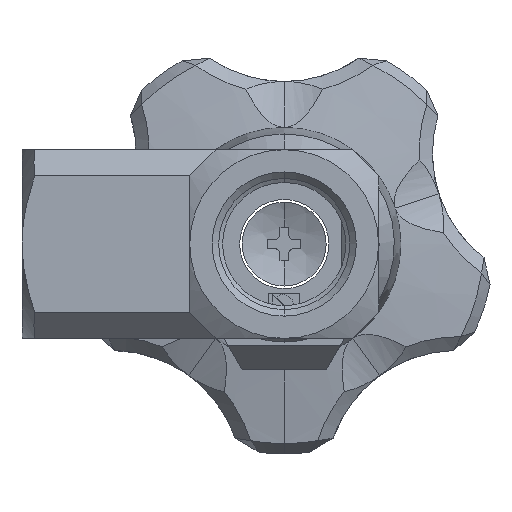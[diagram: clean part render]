
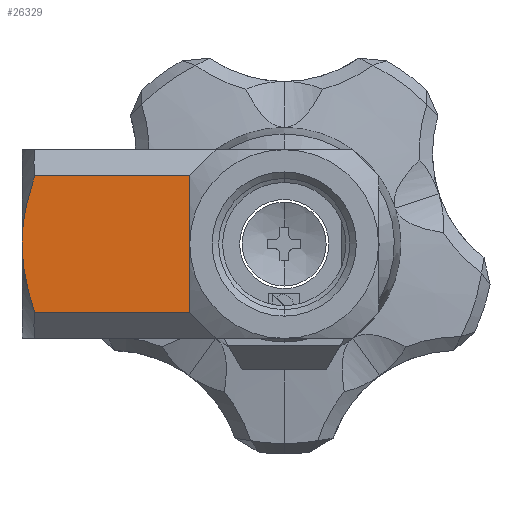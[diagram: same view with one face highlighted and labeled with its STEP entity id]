
A CAD part, front view. The second image highlights one B-rep face of the part: STEP entity #26329.
In plain terms, the highlighted planar face has unit normal (0, -1, 0).
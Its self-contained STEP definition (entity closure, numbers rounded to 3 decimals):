
#850 = CARTESIAN_POINT ( 'NONE',  ( -25., -9., 0. ) ) ;
#951 = CARTESIAN_POINT ( 'NONE',  ( -24.142, -9., 5.448 ) ) ;
#1094 = CARTESIAN_POINT ( 'NONE',  ( -23.787, -9., 6.5 ) ) ;
#2504 = CARTESIAN_POINT ( 'NONE',  ( -24.448, -9., -4.375 ) ) ;
#2564 = CARTESIAN_POINT ( 'NONE',  ( -25., -9., 6.5 ) ) ;
#2800 = CARTESIAN_POINT ( 'NONE',  ( -25., -9., 9. ) ) ;
#3031 = VERTEX_POINT ( 'NONE', #29481 ) ;
#3391 = VECTOR ( 'NONE', #8777, 1000. ) ;
#4104 = LINE ( 'NONE', #22797, #3391 ) ;
#4823 = CARTESIAN_POINT ( 'NONE',  ( -23.787, -9., -6.5 ) ) ;
#5127 = DIRECTION ( 'NONE',  ( 0., 0., -1. ) ) ;
#5610 = CARTESIAN_POINT ( 'NONE',  ( -23.787, -9., 6.5 ) ) ;
#5688 = EDGE_CURVE ( 'NONE', #28181, #3031, #4104, .T. ) ;
#7260 = PLANE ( 'NONE',  #10727 ) ;
#7934 = EDGE_CURVE ( 'NONE', #27457, #17098, #14471, .T. ) ;
#7957 = CARTESIAN_POINT ( 'NONE',  ( -24.769, -9., 2.762 ) ) ;
#8777 = DIRECTION ( 'NONE',  ( 0., 0., -1. ) ) ;
#10263 = CARTESIAN_POINT ( 'NONE',  ( -24.97, -9., 1.115 ) ) ;
#10727 = AXIS2_PLACEMENT_3D ( 'NONE', #2800, #19079, #5127 ) ;
#11723 = CARTESIAN_POINT ( 'NONE',  ( -25., -9., -1.111 ) ) ;
#11924 = CARTESIAN_POINT ( 'NONE',  ( -9., -9., -6.5 ) ) ;
#12039 = EDGE_CURVE ( 'NONE', #17098, #23542, #21212, .T. ) ;
#12066 = EDGE_CURVE ( 'NONE', #23542, #3031, #12286, .T. ) ;
#12286 = LINE ( 'NONE', #11924, #18512 ) ;
#12606 = CARTESIAN_POINT ( 'NONE',  ( -25., -9., 0. ) ) ;
#14471 = B_SPLINE_CURVE_WITH_KNOTS ( 'NONE', 3,
 ( #5610, #951, #19586, #7957, #24271, #10263, #26650, #12606 ),
 .UNSPECIFIED., .F., .F.,
 ( 4, 2, 2, 4 ),
 ( 0.024, 0.027, 0.029, 0.031 ),
 .UNSPECIFIED. ) ;
#15471 = LINE ( 'NONE', #2564, #27895 ) ;
#15896 = CARTESIAN_POINT ( 'NONE',  ( -23.787, -9., -6.5 ) ) ;
#16456 = CARTESIAN_POINT ( 'NONE',  ( -24.878, -9., -2.207 ) ) ;
#17098 = VERTEX_POINT ( 'NONE', #850 ) ;
#17301 = EDGE_LOOP ( 'NONE', ( #18072, #19091, #21432, #21114, #30114 ) ) ;
#18072 = ORIENTED_EDGE ( 'NONE', *, *, #23658, .T. ) ;
#18378 = CARTESIAN_POINT ( 'NONE',  ( -25., -9., 0. ) ) ;
#18512 = VECTOR ( 'NONE', #25952, 1000. ) ;
#18784 = CARTESIAN_POINT ( 'NONE',  ( -24.141, -9., -5.451 ) ) ;
#19079 = DIRECTION ( 'NONE',  ( 0., -1., 0. ) ) ;
#19091 = ORIENTED_EDGE ( 'NONE', *, *, #7934, .T. ) ;
#19586 = CARTESIAN_POINT ( 'NONE',  ( -24.446, -9., 4.384 ) ) ;
#21114 = ORIENTED_EDGE ( 'NONE', *, *, #12066, .T. ) ;
#21212 = B_SPLINE_CURVE_WITH_KNOTS ( 'NONE', 3,
 ( #18378, #11723, #16456, #2504, #18784, #4823 ),
 .UNSPECIFIED., .F., .F.,
 ( 4, 2, 4 ),
 ( 0.031, 0.034, 0.037 ),
 .UNSPECIFIED. ) ;
#21432 = ORIENTED_EDGE ( 'NONE', *, *, #12039, .T. ) ;
#21931 = FACE_OUTER_BOUND ( 'NONE', #17301, .T. ) ;
#22797 = CARTESIAN_POINT ( 'NONE',  ( -9., -9., -9. ) ) ;
#23542 = VERTEX_POINT ( 'NONE', #15896 ) ;
#23658 = EDGE_CURVE ( 'NONE', #28181, #27457, #15471, .T. ) ;
#24271 = CARTESIAN_POINT ( 'NONE',  ( -24.854, -9., 2.217 ) ) ;
#25526 = CARTESIAN_POINT ( 'NONE',  ( -9., -9., 6.5 ) ) ;
#25952 = DIRECTION ( 'NONE',  ( 1., 0., 0. ) ) ;
#26329 = ADVANCED_FACE ( 'NONE', ( #21931 ), #7260, .T. ) ;
#26650 = CARTESIAN_POINT ( 'NONE',  ( -25., -9., 0.555 ) ) ;
#27457 = VERTEX_POINT ( 'NONE', #1094 ) ;
#27725 = DIRECTION ( 'NONE',  ( -1., 0., 0. ) ) ;
#27895 = VECTOR ( 'NONE', #27725, 1000. ) ;
#28181 = VERTEX_POINT ( 'NONE', #25526 ) ;
#29481 = CARTESIAN_POINT ( 'NONE',  ( -9., -9., -6.5 ) ) ;
#30114 = ORIENTED_EDGE ( 'NONE', *, *, #5688, .F. ) ;
